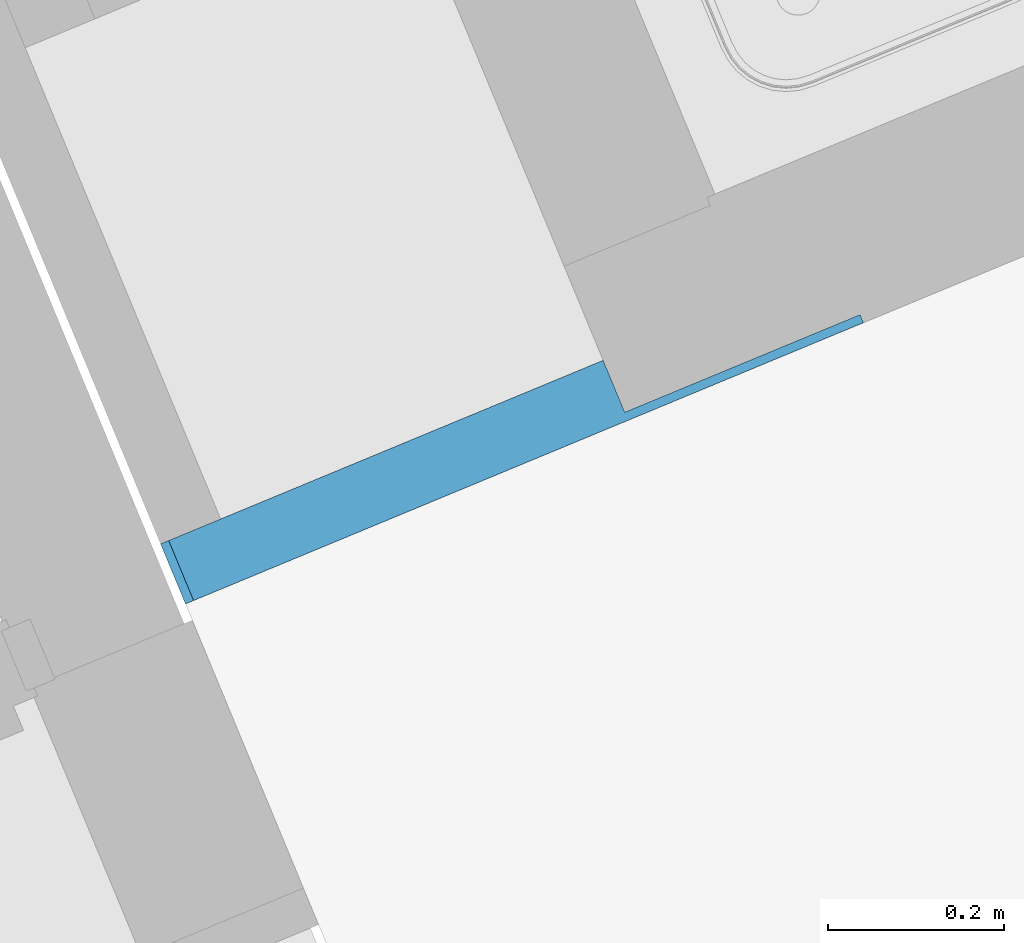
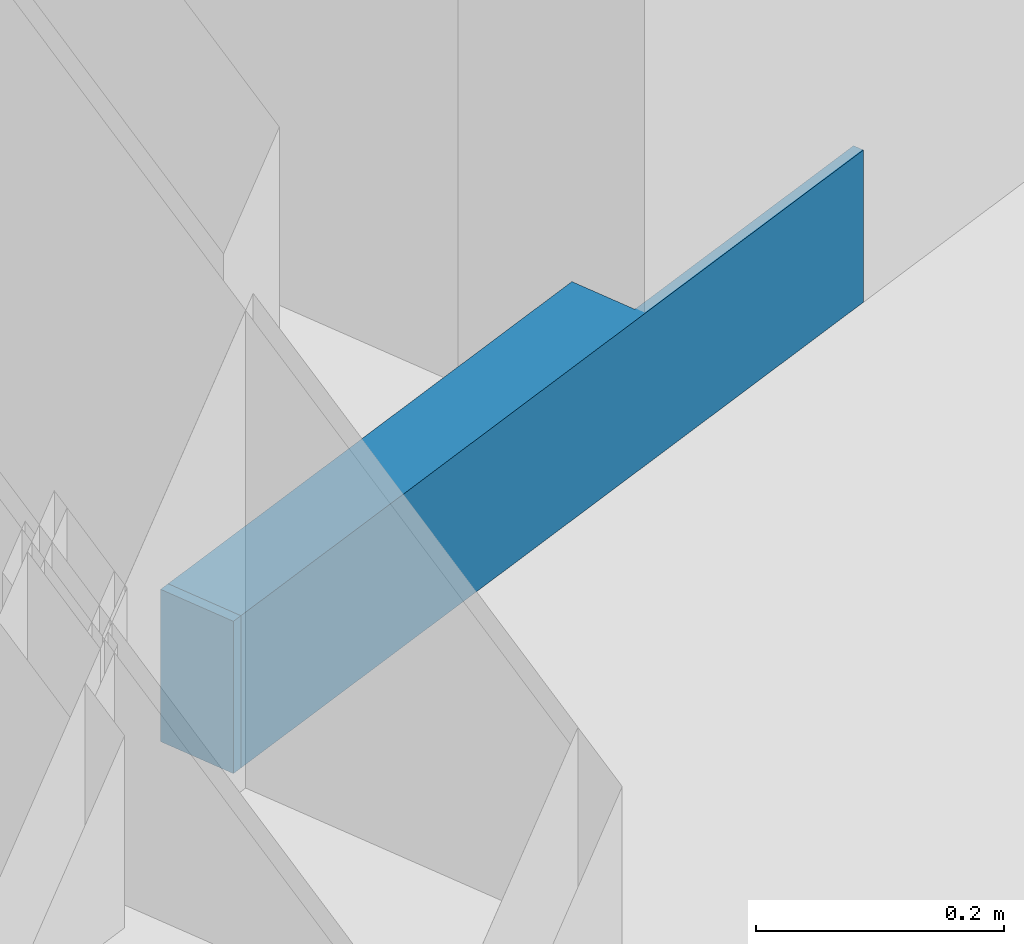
# One storey, part 53 of 91: 2 walls.
"""IFC2X3 building model written with IfcOpenShell, lengths in metres."""

from ifc_helpers import new_model, entity, si_unit, converted_unit, derived_unit, money_unit, direction, frame, origin_with_axes, place, context, subcontext, project, spatial, faceted_brep, material, type_object, element, save


model = new_model("IFC2X3")

# Units and contexts
model_context = context("Model", 3, precision=1e-05, world=origin_with_axes(), true_north=direction((0.0, 1.0)))
body_context = subcontext(model_context, "Body", "Model", "MODEL_VIEW")
ifc_project = project(units=[si_unit("LENGTHUNIT", "METRE"), si_unit("AREAUNIT", "SQUARE_METRE"), si_unit("VOLUMEUNIT", "CUBIC_METRE"), converted_unit("PLANEANGLEUNIT", "DEGREE", entity("IfcPlaneAngleMeasure", 0.0174532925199), si_unit("PLANEANGLEUNIT", "RADIAN"), dimensions=[0, 0, 0, 0, 0, 0, 0]), si_unit("SOLIDANGLEUNIT", "STERADIAN"), money_unit("EUR"), converted_unit("TIMEUNIT", "Year", entity("IfcTimeMeasure", 31556926.0), si_unit("TIMEUNIT", "SECOND"), dimensions=[0, 0, 1, 0, 0, 0, 0]), si_unit("MASSUNIT", "GRAM", prefix="KILO"), si_unit("THERMODYNAMICTEMPERATUREUNIT", "DEGREE_CELSIUS"), si_unit("LUMINOUSINTENSITYUNIT", "LUMEN"), si_unit("ENERGYUNIT", "JOULE", prefix="MEGA"), derived_unit("THERMALCONDUCTANCEUNIT", [(si_unit("POWERUNIT", "WATT"), 1), (si_unit("LENGTHUNIT", "METRE"), -1), (si_unit("THERMODYNAMICTEMPERATUREUNIT", "KELVIN"), -1)]), derived_unit("SPECIFICHEATCAPACITYUNIT", [(si_unit("ENERGYUNIT", "JOULE"), 1), (si_unit("MASSUNIT", "GRAM", prefix="KILO"), -1), (si_unit("THERMODYNAMICTEMPERATUREUNIT", "KELVIN"), -1)]), derived_unit("MASSDENSITYUNIT", [(si_unit("MASSUNIT", "GRAM", prefix="KILO"), 1), (si_unit("VOLUMEUNIT", "CUBIC_METRE"), -1)])], contexts=[model_context])

# Site, building, storey
site_placement = place(None, origin_with_axes())
site = spatial("IfcSite", under=ifc_project, at=site_placement, Name="Site", CompositionType="ELEMENT")
building_placement = place(site_placement, origin_with_axes())
building = spatial("IfcBuilding", under=site, at=building_placement, Name="Bâtiment", CompositionType="ELEMENT")
storey_placement = place(building_placement, frame((0.0, 0.0, 5.44), z_axis=(0.0, 0.0, 1.0), x_axis=(1.0, 0.0, 0.0)))
storey = spatial("IfcBuildingStorey", under=building, at=storey_placement, Name="R+2", CompositionType="ELEMENT", Elevation=5.44)

# Walls
ifc_material = material(Name="Cloison - Carreaux de plâtre")
wall_type = type_object("IfcWallType", Name="Cloison - Carreaux de plâtre 74", PredefinedType="USERDEFINED")
wall_1_placement = place(storey_placement, frame((-23.1643591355, -20.9394273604, 0.0), z_axis=(0.0, 0.0, 1.0), x_axis=(0.923701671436, 0.383112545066, 0.0)))
element("IfcWall", 1, at=wall_1_placement, inside=storey, type_object=wall_type, material=ifc_material, Name="Carreaux de plâtre 8cm", ObjectType="PARTITIONING", context=body_context, shape_type="Brep", body=[
    faceted_brep([(0.0, -0.01, 0.15), (0.0, -0.01, 0.0), (0.00999999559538, -0.01, 0.0), (0.00999999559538, -0.01, 0.15), (0.0, 0.064, 0.0), (0.0, 0.064, 0.15), (0.00999999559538, 0.064, 0.0), (0.00999999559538, 0.064, 0.15)], [[[0, 1, 2, 3]], [[4, 1, 0, 5]], [[1, 4, 6, 2]], [[2, 6, 7, 3]], [[5, 0, 3, 7]], [[4, 5, 7, 6]]]),
])
wall_2_placement = place(storey_placement, frame((-23.1551221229, -20.9355962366, 0.0), z_axis=(0.0, 0.0, 1.0), x_axis=(0.923701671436, 0.383112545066, 0.0)))
element("IfcWall", 2, at=wall_2_placement, inside=storey, type_object=wall_type, material=ifc_material, Name="Carreaux de plâtre 8cm", ObjectType="PARTITIONING", context=body_context, shape_type="Brep", body=[
    faceted_brep([(0.825366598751, -0.01, 0.15), (0.825366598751, -0.01, 0.0), (0.825366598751, -5.08663333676e-10, 0.0), (0.825366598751, -5.18047826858e-10, 0.15), (0.0, -0.01, 0.15), (0.0, -0.01, 0.0), (0.0, 0.064, 0.0), (0.535366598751, 0.064, 0.0), (0.535366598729, -4.9602633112e-10, 0.0), (0.535366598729, -4.9602100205e-10, 0.15), (0.535366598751, 0.064, 0.15), (0.0, 0.064, 0.15)], [[[0, 1, 2, 3]], [[1, 0, 4, 5]], [[6, 7, 8, 2, 1, 5]], [[2, 8, 9, 3]], [[0, 3, 9, 10, 11, 4]], [[6, 5, 4, 11]], [[6, 11, 10, 7]], [[8, 7, 10, 9]]]),
])

save(model, "model.ifc")
